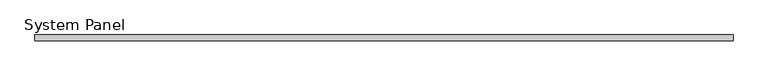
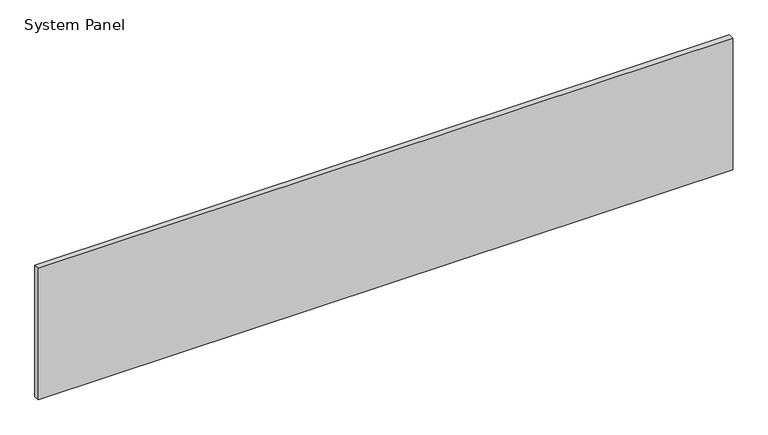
"""IFC4 building model written with IfcOpenShell, lengths in millimetres: plate geometry, System Panel : Equitilt_FlameGuard_50mm_Plain_Surfmist."""

import ifcopenshell
import ifcopenshell.guid

model = None  # the IFC model being written
_history = None  # IfcOwnerHistory: only IFC2X3 demands one
_inside = {}  # id of a spatial element -> (the spatial element, [elements in it])
_under = {}  # id of a project, library or spatial element -> (it, [spatial elements below it])
_declared = {}  # id of a project -> (the project, [libraries it declares])
_typed = {}  # id of a type object -> (the type object, [elements of that type])
_made_of = {}  # id of a material, layer set ... -> (it, [elements and type objects made of it])


def new_model(schema):
    """Start an empty IFC model of exactly this schema.

    Asked for "IFC4X3", IfcOpenShell would pick the latest addendum, in which some entities
    have other attributes; the version numbers below select the first issue.
    IFC2X3 requires an IfcOwnerHistory on every rooted entity: one is made here for all.
    """
    global model, _history
    if schema == "IFC4X3":
        model = ifcopenshell.file(schema_version=(4, 3, 0, 0))
    else:
        model = ifcopenshell.file(schema=schema)
    _inside.clear()
    _under.clear()
    _declared.clear()
    _typed.clear()
    _made_of.clear()
    _history = None
    if model.schema == "IFC2X3":
        org = make("IfcOrganization", Name="unknown")
        user = make(
            "IfcPersonAndOrganization",
            ThePerson=make("IfcPerson", FamilyName="unknown"),
            TheOrganization=org,
        )
        app = make(
            "IfcApplication",
            ApplicationDeveloper=org,
            Version="unknown",
            ApplicationFullName="unknown",
            ApplicationIdentifier="unknown",
        )
        _history = make(
            "IfcOwnerHistory",
            OwningUser=user,
            OwningApplication=app,
            ChangeAction="ADDED",
            CreationDate=0,
        )
    return model


def make(cls, **values):
    """One entity of the class cls with the attributes given. An attribute that is None is left unset."""
    return model.create_entity(
        cls, **{name: value for name, value in values.items() if value is not None}
    )


def rooted(cls, **values):
    """An entity with a GlobalId (a new one), such as an element, a storey or a relation."""
    return make(cls, GlobalId=ifcopenshell.guid.new(), OwnerHistory=_history, **values)


def si_unit(unit_type, name, prefix=None):
    """IfcSIUnit, for example si_unit("LENGTHUNIT", "METRE", prefix="MILLI")."""
    return make("IfcSIUnit", UnitType=unit_type, Prefix=prefix, Name=name)


def assignment(units):
    """IfcUnitAssignment: the units of a project."""
    return None if units is None else make("IfcUnitAssignment", Units=units)


def point(xyz):
    """IfcCartesianPoint."""
    return None if xyz is None else make("IfcCartesianPoint", Coordinates=xyz)


def direction(xyz):
    """IfcDirection."""
    return None if xyz is None else make("IfcDirection", DirectionRatios=xyz)


def frame(location, z_axis=None, x_axis=None):
    """IfcAxis2Placement3D, a coordinate frame: its origin and axes. An axis left out is left unset."""
    return make(
        "IfcAxis2Placement3D",
        Location=point(location),
        Axis=direction(z_axis),
        RefDirection=direction(x_axis),
    )


def origin():
    """The frame at (0, 0, 0) with its axes left unset."""
    return frame((0.0, 0.0, 0.0))


def origin_with_axes():
    """The frame at (0, 0, 0) with the z axis (0, 0, 1) and the x axis (1, 0, 0) written out."""
    return frame((0.0, 0.0, 0.0), z_axis=(0.0, 0.0, 1.0), x_axis=(1.0, 0.0, 0.0))


def place(relative_to, where):
    """IfcLocalPlacement: puts the frame where relative to a parent placement (None: the world)."""
    return make(
        "IfcLocalPlacement", PlacementRelTo=relative_to, RelativePlacement=where
    )


def context(
    kind, dimensions, precision=None, world=None, true_north=None, identifier=None
):
    """IfcGeometricRepresentationContext, for example the 3D "Model" context."""
    return make(
        "IfcGeometricRepresentationContext",
        ContextIdentifier=identifier,
        ContextType=kind,
        CoordinateSpaceDimension=dimensions,
        Precision=precision,
        WorldCoordinateSystem=world,
        TrueNorth=true_north,
    )


def project(units=None, contexts=None):
    """IfcProject with its units and contexts."""
    return rooted(
        "IfcProject",
        Name="project",
        RepresentationContexts=contexts,
        UnitsInContext=assignment(units),
    )


def spatial(cls, under=None, at=None, **own):
    """A site, building, storey or space (cls), placed at a placement, below another one or the project."""
    s = rooted(cls, ObjectPlacement=at, **own)
    if under is not None:
        _under.setdefault(under.id(), (under, []))[1].append(s)
    return s


def polyline(points):
    """IfcPolyline through the points."""
    return make("IfcPolyline", Points=[point(p) for p in points])


def outline(outer, holes=None, kind="AREA"):
    """IfcArbitraryClosedProfileDef: a profile drawn as a closed curve; with holes, ...WithVoids."""
    if holes is None:
        return make("IfcArbitraryClosedProfileDef", ProfileType=kind, OuterCurve=outer)
    return make(
        "IfcArbitraryProfileDefWithVoids",
        ProfileType=kind,
        OuterCurve=outer,
        InnerCurves=holes,
    )


def extrude(swept, where, along, depth):
    """IfcExtrudedAreaSolid: the profile swept, set in the frame where, extruded along a direction by depth."""
    return make(
        "IfcExtrudedAreaSolid",
        SweptArea=swept,
        Position=where,
        ExtrudedDirection=direction(along),
        Depth=depth,
    )


def shape(context_of_items, identifier, shape_type, items):
    """IfcShapeRepresentation: the items that make up one representation, for example the "Body"."""
    return make(
        "IfcShapeRepresentation",
        ContextOfItems=context_of_items,
        RepresentationIdentifier=identifier,
        RepresentationType=shape_type,
        Items=items,
    )


def source(mapping_origin, context_of_items, identifier, shape_type, items):
    """IfcRepresentationMap: a shape defined once, which mapped items show again and again."""
    return make(
        "IfcRepresentationMap",
        MappingOrigin=mapping_origin,
        MappedRepresentation=shape(context_of_items, identifier, shape_type, items),
    )


def transform(
    local_origin,
    x_axis=None,
    y_axis=None,
    z_axis=None,
    scale=None,
    scale2=None,
    scale3=None,
    uniform=True,
):
    """IfcCartesianTransformationOperator3D, or its non-uniform kind. x_axis, y_axis, z_axis: its Axis1, 2, 3."""
    if uniform:
        return make(
            "IfcCartesianTransformationOperator3D",
            Axis1=direction(x_axis),
            Axis2=direction(y_axis),
            LocalOrigin=point(local_origin),
            Scale=scale,
            Axis3=direction(z_axis),
        )
    return make(
        "IfcCartesianTransformationOperator3DnonUniform",
        Axis1=direction(x_axis),
        Axis2=direction(y_axis),
        LocalOrigin=point(local_origin),
        Scale=scale,
        Axis3=direction(z_axis),
        Scale2=scale2,
        Scale3=scale3,
    )


def mapped(mapping_source, mapping_target):
    """IfcMappedItem: shows the shape of a source again, moved by a transform."""
    return make(
        "IfcMappedItem", MappingSource=mapping_source, MappingTarget=mapping_target
    )


def made_of(thing, what):
    """Note that an element or type object is made of a material, layer set ...; save() writes the relation."""
    if what is not None:
        _made_of.setdefault(what.id(), (what, []))[1].append(thing)
    return thing


def element(
    cls,
    number,
    at=None,
    inside=None,
    cuts=None,
    type_object=None,
    material=None,
    context=None,
    identifier="Body",
    shape_type=None,
    held_by="IfcProductDefinitionShape",
    body=None,
    shapes=None,
    **own,
):
    """One element of the class cls, such as IfcWall. Its Tag is "e" and its number.

    at: its placement. inside: the storey or other place that contains it. cuts: it is an
    opening in that element (IfcRelVoidsElement). A single representation is given by context,
    identifier, shape_type and body (its items); several are given by shapes. held_by: the class
    of the entity that holds the representations. save() writes the other relations.
    """
    e = rooted(cls, Tag="e%d" % number, ObjectPlacement=at, **own)
    if body is not None:
        shapes = [shape(context, identifier, shape_type, body)]
    if shapes is not None:
        e.Representation = make(held_by, Representations=shapes)
    if inside is not None:
        _inside.setdefault(inside.id(), (inside, []))[1].append(e)
    if cuts is not None:
        rooted(
            "IfcRelVoidsElement", RelatingBuildingElement=cuts, RelatedOpeningElement=e
        )
    if type_object is not None:
        _typed.setdefault(type_object.id(), (type_object, []))[1].append(e)
    return made_of(e, material)


def aggregate(whole, parts):
    """IfcRelAggregates: a whole, such as a stair, and the parts it consists of."""
    return rooted("IfcRelAggregates", RelatingObject=whole, RelatedObjects=parts)


def save(model, path):
    """Write the relations noted so far, then the file.

    IfcRelAggregates (storeys below a building ...), IfcRelContainedInSpatialStructure (elements
    in a storey), IfcRelDefinesByType, IfcRelAssociatesMaterial and IfcRelDeclares: one each for
    every whole, place, type object, material and project.
    """
    for whole, parts in _under.values():
        aggregate(whole, parts)
    for where, things in _inside.values():
        rooted(
            "IfcRelContainedInSpatialStructure",
            RelatedElements=things,
            RelatingStructure=where,
        )
    for kind, things in _typed.values():
        rooted("IfcRelDefinesByType", RelatedObjects=things, RelatingType=kind)
    for what, things in _made_of.values():
        rooted("IfcRelAssociatesMaterial", RelatedObjects=things, RelatingMaterial=what)
    for by, libraries in _declared.values():
        rooted("IfcRelDeclares", RelatingContext=by, RelatedDefinitions=libraries)
    model.write(path)


def system_panel_ea4dad86(model_context):
    return source(origin(), model_context, "Body", "SweptSolid", [
        extrude(outline(polyline([(2995.0, 0.0), (-2995.0, 0.0), (-2995.0, 50.0), (2995.0, 50.0), (2995.0, 0.0)])), origin_with_axes(), (0.0, 0.0, 1.0), 1200.0),
    ])


if __name__ == "__main__":
    model = new_model("IFC4")
    model_context = context("Model", 3, world=origin())
    ifc_project = project(units=[si_unit("LENGTHUNIT", "METRE", prefix="MILLI")], contexts=[model_context])
    site = spatial("IfcSite", under=ifc_project)
    building = spatial("IfcBuilding", under=site)
    placement = place(None, origin())
    system_panel_shape = system_panel_ea4dad86(model_context)
    element("IfcPlate", 1, ObjectType="System Panel : Equitilt_FlameGuard_50mm_Plain_Surfmist", at=placement, inside=building, context=model_context, shape_type="MappedRepresentation", body=[
        mapped(system_panel_shape, transform((0.0, 0.0, 0.0), x_axis=(1.0, 0.0, 0.0), y_axis=(0.0, 1.0, 0.0), z_axis=(0.0, 0.0, 1.0))),
    ])
    save(model, "model.ifc")
